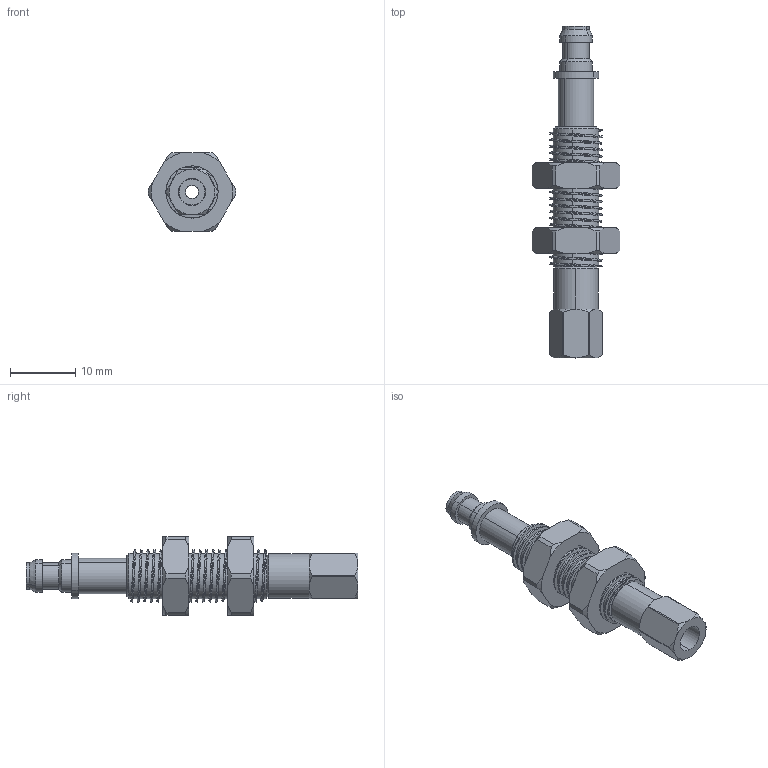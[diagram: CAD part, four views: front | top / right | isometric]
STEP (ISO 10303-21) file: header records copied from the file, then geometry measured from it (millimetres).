
FILE_DESCRIPTION (( 'STEP AP214' ), '1' );
FILE_NAME ('VFRT-7M5.STEP', '2019-11-15T08:34:31', ( '微软用户' ), ( '微软中国' ), 'SwSTEP 2.0', 'SolidWorks 2016', '' );
FILE_SCHEMA (( 'AUTOMOTIVE_DESIGN' ));
Length unit declared in the file: millimetre
Products named in the file (1): VFRT-7M5
Bounding box: 13.5 x 51 x 12 mm (x, y, z)
Volume: 2163.4 mm3; surface area: 3782.2 mm2
Topology: 5 solids, 5 shells, 178 faces, 463 edges, 300 vertices
Faces by surface type: cylinder 94, cone 47, plane 34, bspline 3
Entity records: 11830 total; most frequent: CARTESIAN_POINT 5700, ORIENTED_EDGE 926, DIRECTION 802, EDGE_CURVE 463, AXIS2_PLACEMENT_3D 326, VERTEX_POINT 300, EDGE_LOOP 193, UNCERTAINTY_MEASURE_WITH_UNIT 185
